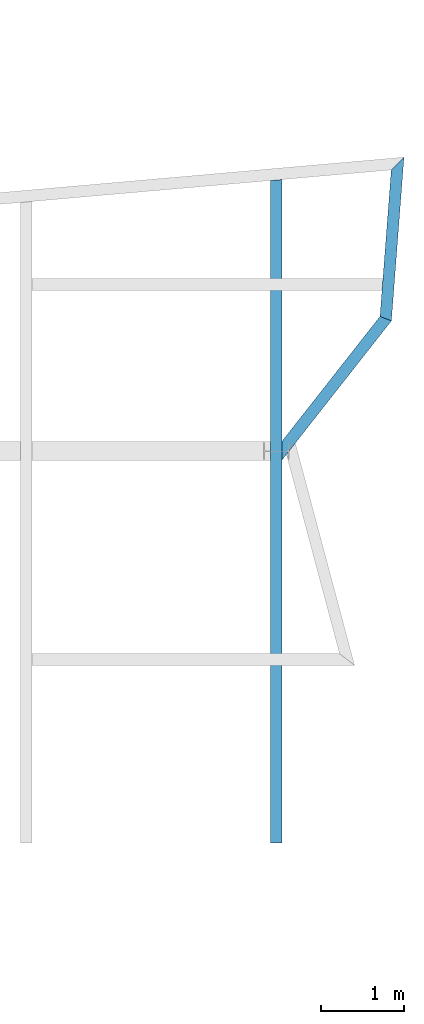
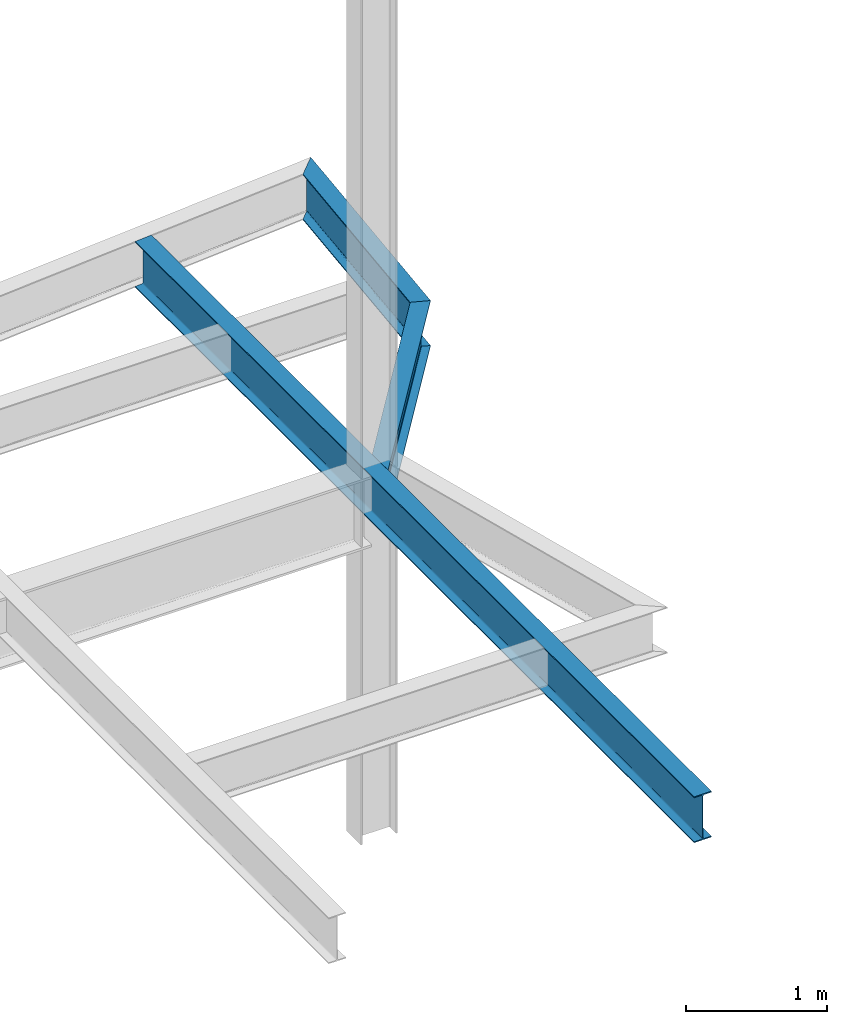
# One storey, part 26 of 26: 3 beams.
"""IFC2X3 building model written with IfcOpenShell, lengths in millimetres."""

from ifc_helpers import new_model, si_unit, origin, place, context, project, spatial, faceted_brep, material, element, save


model = new_model("IFC2X3")

# Units and contexts
context_of_model = context(None, 3, precision=1e-05, world=origin())
ifc_project = project(units=[si_unit("LENGTHUNIT", "METRE", prefix="MILLI")], contexts=[context_of_model])

# Building, storey
building = spatial("IfcBuilding", under=ifc_project, Name="Building", CompositionType="ELEMENT")
storey = spatial("IfcBuildingStorey", under=building, Name="FL4-FRM", CompositionType="ELEMENT")

# Beams
ifc_material_1 = material(Name="A992")
beam_1_placement = place(None, origin())
element("IfcBeam", 1, at=beam_1_placement, inside=storey, material=ifc_material_1, Name="B1007", context=context_of_model, shape_type="Brep", body=[
    faceted_brep([(83930.0, 30246.2, 12974.0), (84070.0, 30258.5, 12974.0), (84070.0, 22300.0, 12974.0), (83930.0, 22300.0, 12974.0), (84070.0, 30258.5, 12982.8), (84070.0, 22300.0, 12982.8), (84013.4, 30253.5, 12982.8), (84013.4, 22300.0, 12982.8), (84011.9, 30253.4, 12982.9), (84011.9, 22300.0, 12982.9), (84010.5, 30253.3, 12983.2), (84010.5, 22300.0, 12983.2), (84009.2, 30253.2, 12983.7), (84009.2, 22300.0, 12983.7), (84007.9, 30253.1, 12984.4), (84007.9, 22300.0, 12984.4), (84006.7, 30253.0, 12985.3), (84006.7, 22300.0, 12985.3), (84005.7, 30252.9, 12986.3), (84005.7, 22300.0, 12986.3), (84004.8, 30252.8, 12987.5), (84004.8, 22300.0, 12987.5), (84004.1, 30252.7, 12988.8), (84004.1, 22300.0, 12988.8), (84003.6, 30252.7, 12990.1), (84003.6, 22300.0, 12990.1), (84003.3, 30252.7, 12991.5), (84003.3, 22300.0, 12991.5), (84003.2, 30252.7, 12993.0), (84003.2, 22300.0, 12993.0), (84003.2, 30252.7, 13354.0), (84003.2, 22300.0, 13354.0), (84003.3, 30252.7, 13355.5), (84003.3, 22300.0, 13355.5), (84003.6, 30252.7, 13356.9), (84003.6, 22300.0, 13356.9), (84004.1, 30252.7, 13358.2), (84004.1, 22300.0, 13358.2), (84004.8, 30252.8, 13359.5), (84004.8, 22300.0, 13359.5), (84005.7, 30252.9, 13360.7), (84005.7, 22300.0, 13360.7), (84006.7, 30253.0, 13361.7), (84006.7, 22300.0, 13361.7), (84007.9, 30253.1, 13362.6), (84007.9, 22300.0, 13362.6), (84009.2, 30253.2, 13363.3), (84009.2, 22300.0, 13363.3), (84010.5, 30253.3, 13363.8), (84010.5, 22300.0, 13363.8), (84011.9, 30253.4, 13364.1), (84011.9, 22300.0, 13364.1), (84013.4, 30253.5, 13364.2), (84013.4, 22300.0, 13364.2), (84070.0, 30258.5, 13364.2), (84070.0, 22300.0, 13364.2), (84070.0, 30258.5, 13373.0), (84070.0, 22300.0, 13373.0), (83930.0, 30246.2, 13373.0), (83930.0, 22300.0, 13373.0), (83930.0, 30246.2, 13364.2), (83930.0, 22300.0, 13364.2), (83986.6, 30251.2, 13364.2), (83986.6, 22300.0, 13364.2), (83988.1, 30251.3, 13364.1), (83988.1, 22300.0, 13364.1), (83989.5, 30251.4, 13363.8), (83989.5, 22300.0, 13363.8), (83990.8, 30251.6, 13363.3), (83990.8, 22300.0, 13363.3), (83992.1, 30251.7, 13362.6), (83992.1, 22300.0, 13362.6), (83993.3, 30251.8, 13361.7), (83993.3, 22300.0, 13361.7), (83994.3, 30251.9, 13360.7), (83994.3, 22300.0, 13360.7), (83995.2, 30251.9, 13359.5), (83995.2, 22300.0, 13359.5), (83995.9, 30252.0, 13358.2), (83995.9, 22300.0, 13358.2), (83996.4, 30252.1, 13356.9), (83996.4, 22300.0, 13356.9), (83996.7, 30252.1, 13355.5), (83996.7, 22300.0, 13355.5), (83996.8, 30252.1, 13354.0), (83996.8, 22300.0, 13354.0), (83996.8, 30252.1, 12993.0), (83996.8, 22300.0, 12993.0), (83996.7, 30252.1, 12991.5), (83996.7, 22300.0, 12991.5), (83996.4, 30252.1, 12990.1), (83996.4, 22300.0, 12990.1), (83995.9, 30252.0, 12988.8), (83995.9, 22300.0, 12988.8), (83995.2, 30251.9, 12987.5), (83995.2, 22300.0, 12987.5), (83994.3, 30251.9, 12986.3), (83994.3, 22300.0, 12986.3), (83993.3, 30251.8, 12985.3), (83993.3, 22300.0, 12985.3), (83992.1, 30251.7, 12984.4), (83992.1, 22300.0, 12984.4), (83990.8, 30251.6, 12983.7), (83990.8, 22300.0, 12983.7), (83989.5, 30251.4, 12983.2), (83989.5, 22300.0, 12983.2), (83988.1, 30251.3, 12982.9), (83988.1, 22300.0, 12982.9), (83986.6, 30251.2, 12982.8), (83986.6, 22300.0, 12982.8), (83930.0, 30246.2, 12982.8), (83930.0, 22300.0, 12982.8)], [[[0, 1, 2, 3]], [[1, 4, 5, 2]], [[4, 6, 7, 5]], [[6, 8, 9, 7]], [[8, 10, 11, 9]], [[10, 12, 13, 11]], [[12, 14, 15, 13]], [[14, 16, 17, 15]], [[16, 18, 19, 17]], [[18, 20, 21, 19]], [[20, 22, 23, 21]], [[22, 24, 25, 23]], [[24, 26, 27, 25]], [[26, 28, 29, 27]], [[28, 30, 31, 29]], [[30, 32, 33, 31]], [[32, 34, 35, 33]], [[34, 36, 37, 35]], [[36, 38, 39, 37]], [[38, 40, 41, 39]], [[40, 42, 43, 41]], [[42, 44, 45, 43]], [[44, 46, 47, 45]], [[46, 48, 49, 47]], [[48, 50, 51, 49]], [[50, 52, 53, 51]], [[52, 54, 55, 53]], [[54, 56, 57, 55]], [[56, 58, 59, 57]], [[58, 60, 61, 59]], [[60, 62, 63, 61]], [[62, 64, 65, 63]], [[64, 66, 67, 65]], [[66, 68, 69, 67]], [[68, 70, 71, 69]], [[70, 72, 73, 71]], [[72, 74, 75, 73]], [[74, 76, 77, 75]], [[76, 78, 79, 77]], [[78, 80, 81, 79]], [[80, 82, 83, 81]], [[82, 84, 85, 83]], [[84, 86, 87, 85]], [[86, 88, 89, 87]], [[88, 90, 91, 89]], [[90, 92, 93, 91]], [[92, 94, 95, 93]], [[94, 96, 97, 95]], [[96, 98, 99, 97]], [[98, 100, 101, 99]], [[100, 102, 103, 101]], [[102, 104, 105, 103]], [[104, 106, 107, 105]], [[106, 108, 109, 107]], [[108, 110, 111, 109]], [[110, 0, 3, 111]], [[0, 110, 108, 106, 104, 102, 100, 98, 96, 94, 92, 90, 88, 86, 84, 82, 80, 78, 76, 74, 72, 70, 68, 66, 64, 62, 60, 58, 56, 54, 52, 50, 48, 46, 44, 42, 40, 38, 36, 34, 32, 30, 28, 26, 24, 22, 20, 18, 16, 14, 12, 10, 8, 6, 4, 1]], [[3, 2, 5, 7, 9, 11, 13, 15, 17, 19, 21, 23, 25, 27, 29, 31, 33, 35, 37, 39, 41, 43, 45, 47, 49, 51, 53, 55, 57, 59, 61, 63, 65, 67, 69, 71, 73, 75, 77, 79, 81, 83, 85, 87, 89, 91, 93, 95, 97, 99, 101, 103, 105, 107, 109, 111]]]),
])
ifc_material_2 = material(Name="A992")
beam_2_placement = place(None, origin())
element("IfcBeam", 2, at=beam_2_placement, inside=storey, material=ifc_material_2, Name="B1008", context=context_of_model, shape_type="Brep", body=[
    faceted_brep([(85244.9, 28616.2, 12974.0), (85381.3, 28563.1, 12974.0), (84070.0, 26894.2, 12974.0), (84070.0, 27120.8, 12974.0), (85381.3, 28563.1, 12982.8), (84070.0, 26894.2, 12982.8), (85326.2, 28584.5, 12982.8), (84070.0, 26985.8, 12982.8), (85324.7, 28585.1, 12982.9), (84070.0, 26988.1, 12982.9), (85323.4, 28585.6, 12983.2), (84070.0, 26990.4, 12983.2), (85322.0, 28586.1, 12983.7), (84070.0, 26992.6, 12983.7), (85320.8, 28586.6, 12984.4), (84070.0, 26994.6, 12984.4), (85319.7, 28587.1, 12985.3), (84070.0, 26996.6, 12985.2), (85318.7, 28587.5, 12986.3), (84070.0, 26998.2, 12986.3), (85317.8, 28587.8, 12987.5), (84070.0, 26999.6, 12987.4), (85317.1, 28588.1, 12988.8), (84070.0, 27000.8, 12988.7), (85316.6, 28588.2, 12990.1), (84070.0, 27001.6, 12990.1), (85316.3, 28588.4, 12991.5), (84070.0, 27002.1, 12991.5), (85316.2, 28588.4, 12993.0), (84070.0, 27002.3, 12993.0), (85316.2, 28588.4, 13354.0), (84070.0, 27002.3, 13354.0), (85316.3, 28588.4, 13355.5), (84070.0, 27002.1, 13355.5), (85316.6, 28588.2, 13356.9), (84070.0, 27001.6, 13356.9), (85317.1, 28588.1, 13358.2), (84070.0, 27000.8, 13358.3), (85317.8, 28587.8, 13359.5), (84070.0, 26999.6, 13359.6), (85318.7, 28587.5, 13360.7), (84070.0, 26998.2, 13360.7), (85319.7, 28587.1, 13361.7), (84070.0, 26996.6, 13361.8), (85320.8, 28586.6, 13362.6), (84070.0, 26994.6, 13362.6), (85322.0, 28586.1, 13363.3), (84070.0, 26992.6, 13363.3), (85323.4, 28585.6, 13363.8), (84070.0, 26990.4, 13363.8), (85324.7, 28585.1, 13364.1), (84070.0, 26988.1, 13364.1), (85326.2, 28584.5, 13364.2), (84070.0, 26985.8, 13364.2), (85381.3, 28563.1, 13364.2), (84070.0, 26894.2, 13364.2), (85381.3, 28563.1, 13373.0), (84070.0, 26894.2, 13373.0), (85244.9, 28616.2, 13373.0), (84070.0, 27120.8, 13373.0), (85244.9, 28616.2, 13364.2), (84070.0, 27120.8, 13364.2), (85300.1, 28594.7, 13364.2), (84070.0, 27029.2, 13364.2), (85301.5, 28594.1, 13364.1), (84070.0, 27026.8, 13364.1), (85302.9, 28593.6, 13363.8), (84070.0, 27024.5, 13363.8), (85304.2, 28593.1, 13363.3), (84070.0, 27022.3, 13363.3), (85305.4, 28592.6, 13362.6), (84070.0, 27020.3, 13362.6), (85306.6, 28592.2, 13361.7), (84070.0, 27018.4, 13361.8), (85307.6, 28591.8, 13360.7), (84070.0, 27016.7, 13360.7), (85308.4, 28591.4, 13359.5), (84070.0, 27015.3, 13359.6), (85309.1, 28591.2, 13358.2), (84070.0, 27014.2, 13358.3), (85309.6, 28591.0, 13356.9), (84070.0, 27013.4, 13356.9), (85309.9, 28590.9, 13355.5), (84070.0, 27012.9, 13355.5), (85310.0, 28590.8, 13354.0), (84070.0, 27012.7, 13354.0), (85310.0, 28590.8, 12993.0), (84070.0, 27012.7, 12993.0), (85309.9, 28590.9, 12991.5), (84070.0, 27012.9, 12991.5), (85309.6, 28591.0, 12990.1), (84070.0, 27013.4, 12990.1), (85309.1, 28591.2, 12988.8), (84070.0, 27014.2, 12988.7), (85308.4, 28591.4, 12987.5), (84070.0, 27015.3, 12987.4), (85307.6, 28591.8, 12986.3), (84070.0, 27016.7, 12986.3), (85306.6, 28592.2, 12985.3), (84070.0, 27018.4, 12985.2), (85305.4, 28592.6, 12984.4), (84070.0, 27020.3, 12984.4), (85304.2, 28593.1, 12983.7), (84070.0, 27022.3, 12983.7), (85302.9, 28593.6, 12983.2), (84070.0, 27024.5, 12983.2), (85301.5, 28594.1, 12982.9), (84070.0, 27026.8, 12982.9), (85300.1, 28594.7, 12982.8), (84070.0, 27029.2, 12982.8), (85244.9, 28616.2, 12982.8), (84070.0, 27120.8, 12982.8)], [[[0, 1, 2, 3]], [[1, 4, 5, 2]], [[4, 6, 7, 5]], [[6, 8, 9, 7]], [[8, 10, 11, 9]], [[10, 12, 13, 11]], [[12, 14, 15, 13]], [[14, 16, 17, 15]], [[16, 18, 19, 17]], [[18, 20, 21, 19]], [[20, 22, 23, 21]], [[22, 24, 25, 23]], [[24, 26, 27, 25]], [[26, 28, 29, 27]], [[28, 30, 31, 29]], [[30, 32, 33, 31]], [[32, 34, 35, 33]], [[34, 36, 37, 35]], [[36, 38, 39, 37]], [[38, 40, 41, 39]], [[40, 42, 43, 41]], [[42, 44, 45, 43]], [[44, 46, 47, 45]], [[46, 48, 49, 47]], [[48, 50, 51, 49]], [[50, 52, 53, 51]], [[52, 54, 55, 53]], [[54, 56, 57, 55]], [[56, 58, 59, 57]], [[58, 60, 61, 59]], [[60, 62, 63, 61]], [[62, 64, 65, 63]], [[64, 66, 67, 65]], [[66, 68, 69, 67]], [[68, 70, 71, 69]], [[70, 72, 73, 71]], [[72, 74, 75, 73]], [[74, 76, 77, 75]], [[76, 78, 79, 77]], [[78, 80, 81, 79]], [[80, 82, 83, 81]], [[82, 84, 85, 83]], [[84, 86, 87, 85]], [[86, 88, 89, 87]], [[88, 90, 91, 89]], [[90, 92, 93, 91]], [[92, 94, 95, 93]], [[94, 96, 97, 95]], [[96, 98, 99, 97]], [[98, 100, 101, 99]], [[100, 102, 103, 101]], [[102, 104, 105, 103]], [[104, 106, 107, 105]], [[106, 108, 109, 107]], [[108, 110, 111, 109]], [[110, 0, 3, 111]], [[0, 110, 108, 106, 104, 102, 100, 98, 96, 94, 92, 90, 88, 86, 84, 82, 80, 78, 76, 74, 72, 70, 68, 66, 64, 62, 60, 58, 56, 54, 52, 50, 48, 46, 44, 42, 40, 38, 36, 34, 32, 30, 28, 26, 24, 22, 20, 18, 16, 14, 12, 10, 8, 6, 4, 1]], [[3, 2, 5, 7, 9, 11, 13, 15, 17, 19, 21, 23, 25, 27, 29, 31, 33, 35, 37, 39, 41, 43, 45, 47, 49, 51, 53, 55, 57, 59, 61, 63, 65, 67, 69, 71, 73, 75, 77, 79, 81, 83, 85, 87, 89, 91, 93, 95, 97, 99, 101, 103, 105, 107, 109, 111]]]),
])
ifc_material_3 = material(Name="A992")
beam_3_placement = place(None, origin())
element("IfcBeam", 3, at=beam_3_placement, inside=storey, material=ifc_material_3, Name="B1009", context=context_of_model, shape_type="Brep", body=[
    faceted_brep([(85380.1, 30373.4, 12974.0), (85532.4, 30527.3, 12974.0), (85381.3, 28563.1, 12974.0), (85244.9, 28616.2, 12974.0), (85532.4, 30527.3, 12982.8), (85381.3, 28563.1, 12982.8), (85470.8, 30465.1, 12982.8), (85326.2, 28584.5, 12982.8), (85469.3, 30463.5, 12982.9), (85324.7, 28585.1, 12982.9), (85467.7, 30462.0, 12983.2), (85323.4, 28585.6, 12983.2), (85466.2, 30460.5, 12983.7), (85322.0, 28586.1, 12983.7), (85464.9, 30459.1, 12984.4), (85320.8, 28586.6, 12984.4), (85463.6, 30457.8, 12985.2), (85319.7, 28587.1, 12985.3), (85462.5, 30456.7, 12986.3), (85318.7, 28587.5, 12986.3), (85461.5, 30455.7, 12987.4), (85317.8, 28587.8, 12987.5), (85460.7, 30454.9, 12988.7), (85317.1, 28588.1, 12988.8), (85460.2, 30454.4, 12990.1), (85316.6, 28588.2, 12990.1), (85459.9, 30454.1, 12991.5), (85316.3, 28588.4, 12991.5), (85459.7, 30453.9, 12993.0), (85316.2, 28588.4, 12993.0), (85459.7, 30453.9, 13354.0), (85316.2, 28588.4, 13354.0), (85459.9, 30454.1, 13355.5), (85316.3, 28588.4, 13355.5), (85460.2, 30454.4, 13356.9), (85316.6, 28588.2, 13356.9), (85460.7, 30454.9, 13358.3), (85317.1, 28588.1, 13358.2), (85461.5, 30455.7, 13359.6), (85317.8, 28587.8, 13359.5), (85462.5, 30456.7, 13360.7), (85318.7, 28587.5, 13360.7), (85463.6, 30457.8, 13361.8), (85319.7, 28587.1, 13361.7), (85464.9, 30459.1, 13362.6), (85320.8, 28586.6, 13362.6), (85466.2, 30460.5, 13363.3), (85322.0, 28586.1, 13363.3), (85467.7, 30462.0, 13363.8), (85323.4, 28585.6, 13363.8), (85469.3, 30463.5, 13364.1), (85324.7, 28585.1, 13364.1), (85470.8, 30465.1, 13364.2), (85326.2, 28584.5, 13364.2), (85532.4, 30527.3, 13364.2), (85381.3, 28563.1, 13364.2), (85532.4, 30527.3, 13373.0), (85381.3, 28563.1, 13373.0), (85380.1, 30373.4, 13373.0), (85244.9, 28616.2, 13373.0), (85380.1, 30373.4, 13364.2), (85244.9, 28616.2, 13364.2), (85441.7, 30435.7, 13364.2), (85300.1, 28594.7, 13364.2), (85443.2, 30437.2, 13364.1), (85301.5, 28594.1, 13364.1), (85444.8, 30438.8, 13363.8), (85302.9, 28593.6, 13363.8), (85446.3, 30440.3, 13363.3), (85304.2, 28593.1, 13363.3), (85447.6, 30441.7, 13362.6), (85305.4, 28592.6, 13362.6), (85448.9, 30443.0, 13361.8), (85306.6, 28592.2, 13361.7), (85450.0, 30444.1, 13360.7), (85307.6, 28591.8, 13360.7), (85451.0, 30445.0, 13359.6), (85308.4, 28591.4, 13359.5), (85451.8, 30445.8, 13358.3), (85309.1, 28591.2, 13358.2), (85452.3, 30446.4, 13356.9), (85309.6, 28591.0, 13356.9), (85452.6, 30446.7, 13355.5), (85309.9, 28590.9, 13355.5), (85452.8, 30446.9, 13354.0), (85310.0, 28590.8, 13354.0), (85452.8, 30446.9, 12993.0), (85310.0, 28590.8, 12993.0), (85452.6, 30446.7, 12991.5), (85309.9, 28590.9, 12991.5), (85452.3, 30446.4, 12990.1), (85309.6, 28591.0, 12990.1), (85451.8, 30445.8, 12988.7), (85309.1, 28591.2, 12988.8), (85451.0, 30445.0, 12987.4), (85308.4, 28591.4, 12987.5), (85450.0, 30444.1, 12986.3), (85307.6, 28591.8, 12986.3), (85448.9, 30443.0, 12985.2), (85306.6, 28592.2, 12985.3), (85447.6, 30441.7, 12984.4), (85305.4, 28592.6, 12984.4), (85446.3, 30440.3, 12983.7), (85304.2, 28593.1, 12983.7), (85444.8, 30438.8, 12983.2), (85302.9, 28593.6, 12983.2), (85443.2, 30437.2, 12982.9), (85301.5, 28594.1, 12982.9), (85441.7, 30435.7, 12982.8), (85300.1, 28594.7, 12982.8), (85380.1, 30373.4, 12982.8), (85244.9, 28616.2, 12982.8)], [[[0, 1, 2, 3]], [[1, 4, 5, 2]], [[4, 6, 7, 5]], [[6, 8, 9, 7]], [[8, 10, 11, 9]], [[10, 12, 13, 11]], [[12, 14, 15, 13]], [[14, 16, 17, 15]], [[16, 18, 19, 17]], [[18, 20, 21, 19]], [[20, 22, 23, 21]], [[22, 24, 25, 23]], [[24, 26, 27, 25]], [[26, 28, 29, 27]], [[28, 30, 31, 29]], [[30, 32, 33, 31]], [[32, 34, 35, 33]], [[34, 36, 37, 35]], [[36, 38, 39, 37]], [[38, 40, 41, 39]], [[40, 42, 43, 41]], [[42, 44, 45, 43]], [[44, 46, 47, 45]], [[46, 48, 49, 47]], [[48, 50, 51, 49]], [[50, 52, 53, 51]], [[52, 54, 55, 53]], [[54, 56, 57, 55]], [[56, 58, 59, 57]], [[58, 60, 61, 59]], [[60, 62, 63, 61]], [[62, 64, 65, 63]], [[64, 66, 67, 65]], [[66, 68, 69, 67]], [[68, 70, 71, 69]], [[70, 72, 73, 71]], [[72, 74, 75, 73]], [[74, 76, 77, 75]], [[76, 78, 79, 77]], [[78, 80, 81, 79]], [[80, 82, 83, 81]], [[82, 84, 85, 83]], [[84, 86, 87, 85]], [[86, 88, 89, 87]], [[88, 90, 91, 89]], [[90, 92, 93, 91]], [[92, 94, 95, 93]], [[94, 96, 97, 95]], [[96, 98, 99, 97]], [[98, 100, 101, 99]], [[100, 102, 103, 101]], [[102, 104, 105, 103]], [[104, 106, 107, 105]], [[106, 108, 109, 107]], [[108, 110, 111, 109]], [[110, 0, 3, 111]], [[0, 110, 108, 106, 104, 102, 100, 98, 96, 94, 92, 90, 88, 86, 84, 82, 80, 78, 76, 74, 72, 70, 68, 66, 64, 62, 60, 58, 56, 54, 52, 50, 48, 46, 44, 42, 40, 38, 36, 34, 32, 30, 28, 26, 24, 22, 20, 18, 16, 14, 12, 10, 8, 6, 4, 1]], [[3, 2, 5, 7, 9, 11, 13, 15, 17, 19, 21, 23, 25, 27, 29, 31, 33, 35, 37, 39, 41, 43, 45, 47, 49, 51, 53, 55, 57, 59, 61, 63, 65, 67, 69, 71, 73, 75, 77, 79, 81, 83, 85, 87, 89, 91, 93, 95, 97, 99, 101, 103, 105, 107, 109, 111]]]),
])

save(model, "model.ifc")
